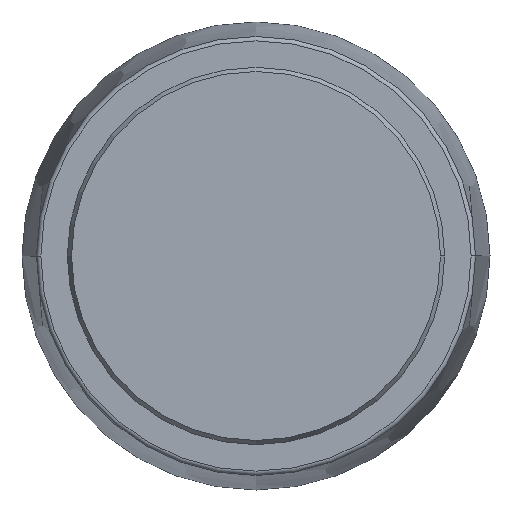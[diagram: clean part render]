
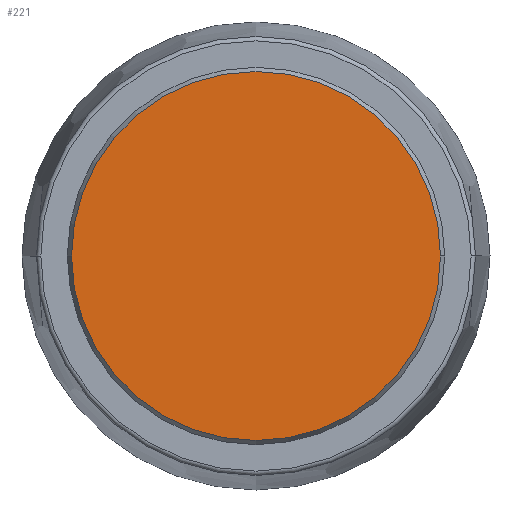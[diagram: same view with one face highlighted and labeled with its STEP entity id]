
A CAD part, front view. The second image highlights one B-rep face of the part: STEP entity #221.
In plain terms, the highlighted planar face has unit normal (0, -1, 0).
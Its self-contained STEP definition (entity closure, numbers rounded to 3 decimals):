
#3 = CIRCLE ( 'NONE', #175, 12.611 ) ;
#118 = CARTESIAN_POINT ( 'NONE',  ( 0., -16., 0. ) ) ;
#128 = DIRECTION ( 'NONE',  ( 0., 1., 0. ) ) ;
#131 = VERTEX_POINT ( 'NONE', #460 ) ;
#140 = DIRECTION ( 'NONE',  ( -1., 0., 0. ) ) ;
#175 = AXIS2_PLACEMENT_3D ( 'NONE', #310, #467, #383 ) ;
#182 = DIRECTION ( 'NONE',  ( 0., 1., 0. ) ) ;
#195 = CARTESIAN_POINT ( 'NONE',  ( 12.611, -16., 0. ) ) ;
#211 = AXIS2_PLACEMENT_3D ( 'NONE', #272, #182, #140 ) ;
#216 = FACE_OUTER_BOUND ( 'NONE', #392, .T. ) ;
#221 = ADVANCED_FACE ( 'NONE', ( #216 ), #232, .F. ) ;
#230 = AXIS2_PLACEMENT_3D ( 'NONE', #118, #128, #555 ) ;
#232 = PLANE ( 'NONE',  #211 ) ;
#272 = CARTESIAN_POINT ( 'NONE',  ( 0., -16., 0. ) ) ;
#310 = CARTESIAN_POINT ( 'NONE',  ( 0., -16., 0. ) ) ;
#336 = VERTEX_POINT ( 'NONE', #195 ) ;
#383 = DIRECTION ( 'NONE',  ( -1., 0., 0. ) ) ;
#392 = EDGE_LOOP ( 'NONE', ( #541, #495 ) ) ;
#412 = CIRCLE ( 'NONE', #230, 12.611 ) ;
#418 = EDGE_CURVE ( 'NONE', #131, #336, #412, .T. ) ;
#460 = CARTESIAN_POINT ( 'NONE',  ( -12.611, -16., 0. ) ) ;
#467 = DIRECTION ( 'NONE',  ( 0., 1., 0. ) ) ;
#495 = ORIENTED_EDGE ( 'NONE', *, *, #546, .F. ) ;
#541 = ORIENTED_EDGE ( 'NONE', *, *, #418, .F. ) ;
#546 = EDGE_CURVE ( 'NONE', #336, #131, #3, .T. ) ;
#555 = DIRECTION ( 'NONE',  ( -1., 0., 0. ) ) ;
